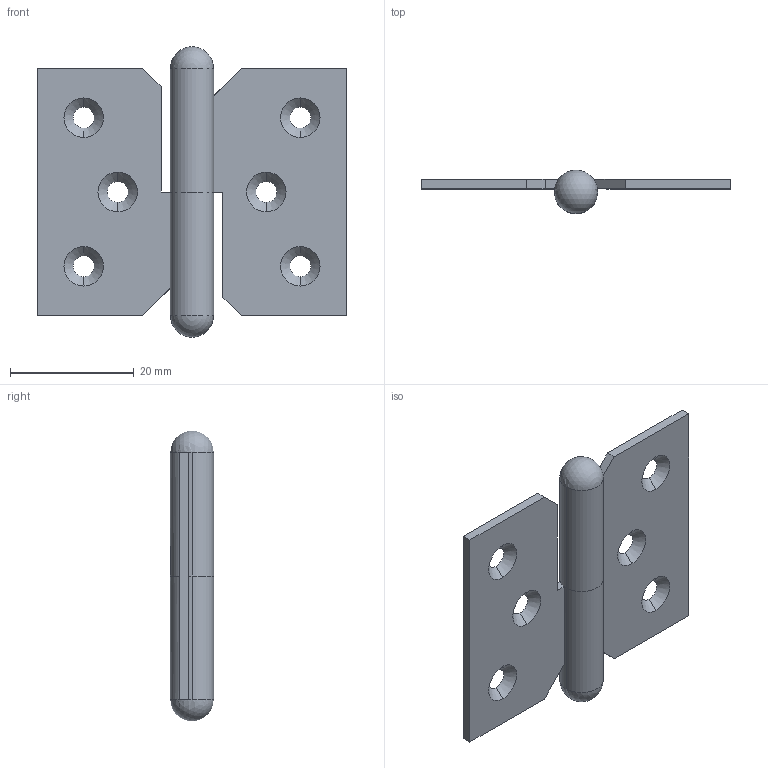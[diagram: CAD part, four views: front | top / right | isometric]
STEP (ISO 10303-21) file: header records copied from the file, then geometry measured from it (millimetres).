
FILE_DESCRIPTION((''),'2;1');
FILE_NAME('6078.01,02.stp','2015-07-22T15:52:59',(''),(''),'Mechanical Desktop 2006','Mechanical Desktop 2006',', , ');
FILE_SCHEMA(('CONFIG_CONTROL_DESIGN'));
Length unit declared in the file: millimetre
Products named in the file (1): 6078.01-02
Bounding box: 50 x 7 x 46.95 mm (x, y, z)
Volume: 4002.2 mm3; surface area: 5105 mm2
Topology: 2 solids, 2 shells, 42 faces, 116 edges, 76 vertices
Faces by surface type: plane 20, cone 12, cylinder 8, sphere 2
Entity records: 1413 total; most frequent: DIRECTION 238, CARTESIAN_POINT 223, ORIENTED_EDGE 216, EDGE_CURVE 108, AXIS2_PLACEMENT_3D 87, VERTEX_POINT 72, VECTOR 64, LINE 64
